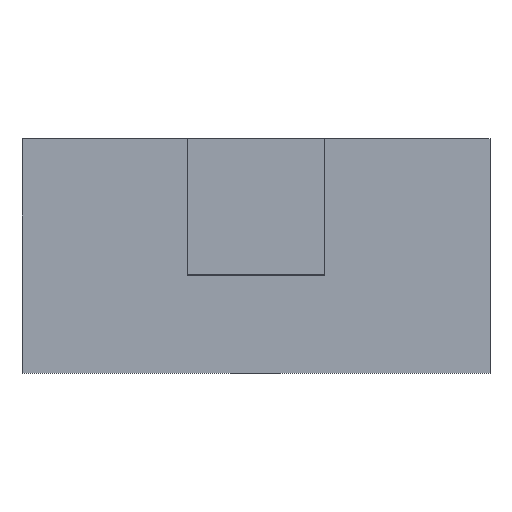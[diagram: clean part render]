
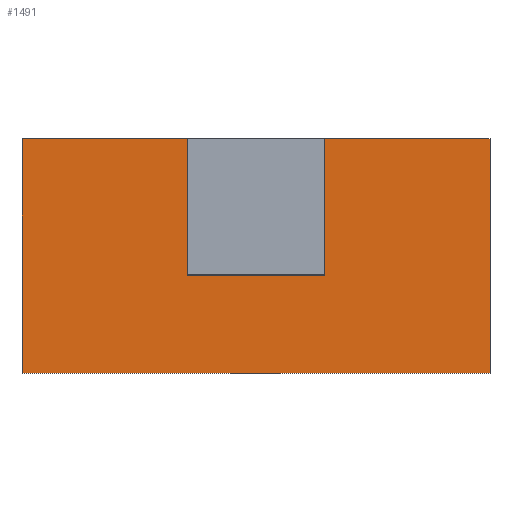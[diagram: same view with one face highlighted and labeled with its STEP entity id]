
A CAD part, top view. The second image highlights one B-rep face of the part: STEP entity #1491.
In plain terms, the highlighted planar face has unit normal (0, 0, 1).
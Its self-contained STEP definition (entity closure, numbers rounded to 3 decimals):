
#836=PLANE('',#12356);
#1491=ADVANCED_FACE('',(#2348),#836,.T.);
#2348=FACE_OUTER_BOUND('',#3058,.T.);
#3058=EDGE_LOOP('',(#8391,#8392,#8393,#8394,#8395,#8396,#8397,#8398));
#4133=LINE('',#19311,#5243);
#4137=LINE('',#19320,#5247);
#4140=LINE('',#19326,#5250);
#4143=LINE('',#19332,#5253);
#4147=LINE('',#19340,#5257);
#4149=LINE('',#19344,#5259);
#4152=LINE('',#19350,#5262);
#4155=LINE('',#19356,#5265);
#5243=VECTOR('',#15479,1.);
#5247=VECTOR('',#15485,1.);
#5250=VECTOR('',#15490,1.);
#5253=VECTOR('',#15495,1.);
#5257=VECTOR('',#15499,1.);
#5259=VECTOR('',#15505,1.);
#5262=VECTOR('',#15510,1.);
#5265=VECTOR('',#15515,1.);
#8391=ORIENTED_EDGE('',*,*,#10919,.T.);
#8392=ORIENTED_EDGE('',*,*,#10915,.T.);
#8393=ORIENTED_EDGE('',*,*,#10929,.T.);
#8394=ORIENTED_EDGE('',*,*,#10931,.T.);
#8395=ORIENTED_EDGE('',*,*,#10934,.T.);
#8396=ORIENTED_EDGE('',*,*,#10937,.T.);
#8397=ORIENTED_EDGE('',*,*,#10925,.T.);
#8398=ORIENTED_EDGE('',*,*,#10922,.T.);
#9357=VERTEX_POINT('',#19312);
#9358=VERTEX_POINT('',#19313);
#9361=VERTEX_POINT('',#19321);
#9363=VERTEX_POINT('',#19327);
#9365=VERTEX_POINT('',#19333);
#9368=VERTEX_POINT('',#19339);
#9369=VERTEX_POINT('',#19345);
#9371=VERTEX_POINT('',#19351);
#10915=EDGE_CURVE('',#9357,#9358,#4133,.T.);
#10919=EDGE_CURVE('',#9361,#9357,#4137,.T.);
#10922=EDGE_CURVE('',#9363,#9361,#4140,.T.);
#10925=EDGE_CURVE('',#9365,#9363,#4143,.T.);
#10929=EDGE_CURVE('',#9358,#9368,#4147,.T.);
#10931=EDGE_CURVE('',#9368,#9369,#4149,.T.);
#10934=EDGE_CURVE('',#9369,#9371,#4152,.T.);
#10937=EDGE_CURVE('',#9371,#9365,#4155,.T.);
#12356=AXIS2_PLACEMENT_3D('',#19360,#15521,#15522);
#15479=DIRECTION('',(0.,1.,0.));
#15485=DIRECTION('',(-1.,0.,0.));
#15490=DIRECTION('',(0.,-1.,0.));
#15495=DIRECTION('',(-1.,0.,0.));
#15499=DIRECTION('',(-1.,0.,0.));
#15505=DIRECTION('',(0.,-1.,0.));
#15510=DIRECTION('',(1.,0.,0.));
#15515=DIRECTION('',(0.,1.,0.));
#15521=DIRECTION('',(0.,0.,1.));
#15522=DIRECTION('',(1.,0.,0.));
#19311=CARTESIAN_POINT('',(-131.903,-58.92,-166.08));
#19312=CARTESIAN_POINT('',(-131.903,-320.841,-166.08));
#19313=CARTESIAN_POINT('',(-131.903,-58.92,-166.08));
#19320=CARTESIAN_POINT('',(-131.903,-320.841,-166.08));
#19321=CARTESIAN_POINT('',(131.9,-320.841,-166.08));
#19326=CARTESIAN_POINT('',(131.9,-320.841,-166.08));
#19327=CARTESIAN_POINT('',(131.9,-58.92,-166.08));
#19332=CARTESIAN_POINT('',(449.,-58.92,-166.08));
#19333=CARTESIAN_POINT('',(449.,-58.92,-166.08));
#19339=CARTESIAN_POINT('',(-449.,-58.92,-166.08));
#19340=CARTESIAN_POINT('',(449.,-58.92,-166.08));
#19344=CARTESIAN_POINT('',(-449.,-58.92,-166.08));
#19345=CARTESIAN_POINT('',(-449.,-508.92,-166.08));
#19350=CARTESIAN_POINT('',(-449.,-508.92,-166.08));
#19351=CARTESIAN_POINT('',(449.,-508.92,-166.08));
#19356=CARTESIAN_POINT('',(449.,-508.92,-166.08));
#19360=CARTESIAN_POINT('',(0.,0.,-166.08));
